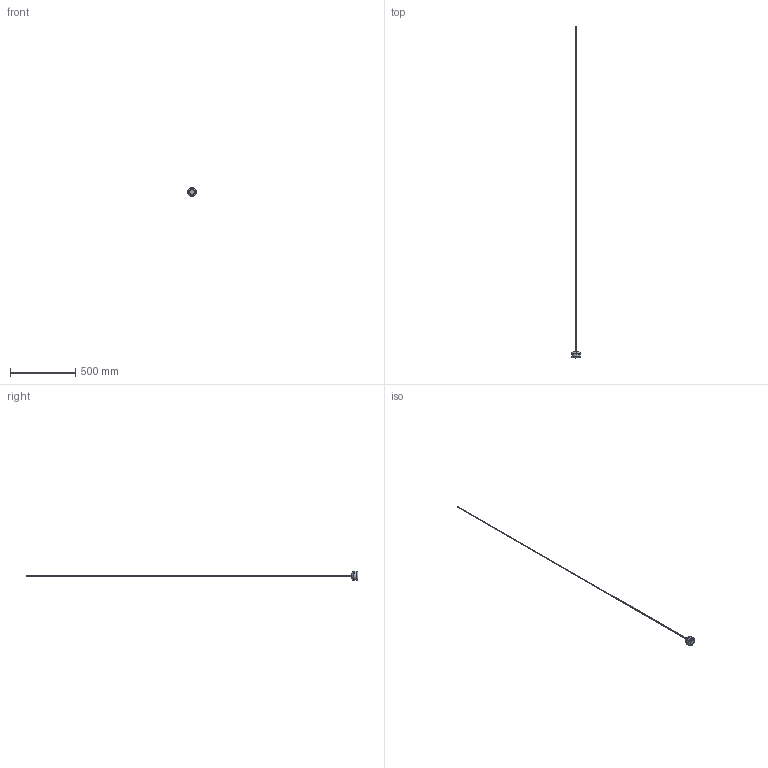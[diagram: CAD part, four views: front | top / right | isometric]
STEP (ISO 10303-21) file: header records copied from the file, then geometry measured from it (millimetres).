
FILE_DESCRIPTION (( 'STEP AP203' ), '1' );
FILE_NAME ('SYURMXXXXXXXXXX.STEP', '2025-11-14T18:23:11', ( '' ), ( '' ), 'SwSTEP 2.0', 'SolidWorks 2024', '' );
FILE_SCHEMA (( 'CONFIG_CONTROL_DESIGN' ));
Length unit declared in the file: millimetre
Products named in the file (6): SYURMXXXXXXXXXX; CAVO ELETTRICO+RIV TESSUTO; URBAN MINI-SP1-01-V3; URBAN MINI-PL1-08-V1; URBAN MINI-PL1-02-V1; URBAN MINI-SP1-02-V2
Assembly tree (5 placements, depth 2):
  SYURMXXXXXXXXXX
    URBAN MINI-SP1-01-V3
    URBAN MINI-SP1-02-V2
    URBAN MINI-PL1-02-V1
    URBAN MINI-PL1-08-V1
    CAVO ELETTRICO+RIV TESSUTO
Bounding box: 67 x 2537 x 67 mm (x, y, z)
Volume: 124433.8 mm3; surface area: 82820.2 mm2
Topology: 5 solids, 5 shells, 98 faces, 192 edges, 110 vertices
Faces by surface type: cylinder 32, cone 30, torus 20, plane 16
Entity records: 3158 total; most frequent: DIRECTION 534, CARTESIAN_POINT 408, ORIENTED_EDGE 384, AXIS2_PLACEMENT_3D 236, EDGE_CURVE 192, CIRCLE 130, VERTEX_POINT 110, EDGE_LOOP 110
